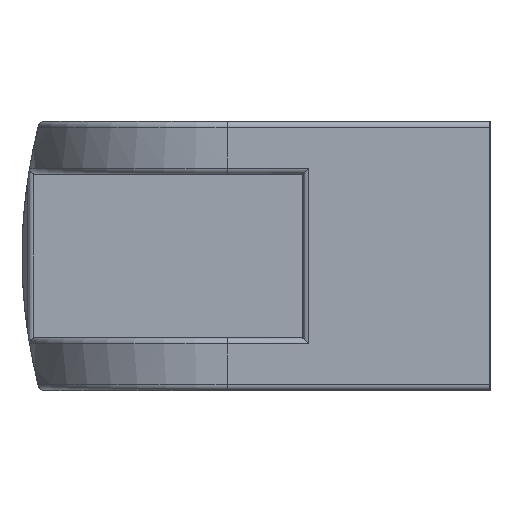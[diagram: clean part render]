
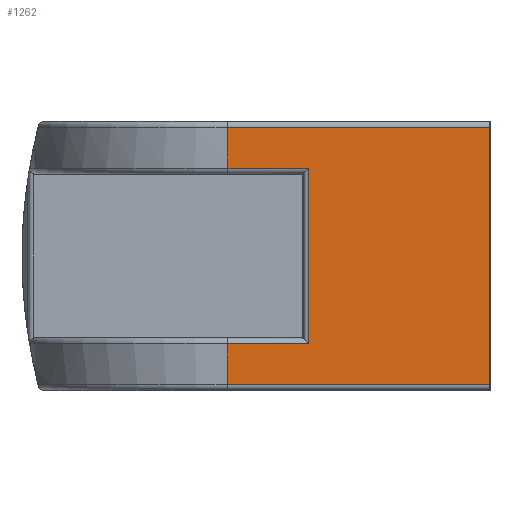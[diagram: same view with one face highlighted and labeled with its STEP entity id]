
A CAD part, left-side view. The second image highlights one B-rep face of the part: STEP entity #1262.
In plain terms, the highlighted planar face has unit normal (-1, 0, 0).
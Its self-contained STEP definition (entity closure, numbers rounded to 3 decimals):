
#96 = CARTESIAN_POINT ( 'NONE',  ( 0., 0., -19. ) ) ;
#261 = CARTESIAN_POINT ( 'NONE',  ( 0., 22.444, -0.5 ) ) ;
#317 = ORIENTED_EDGE ( 'NONE', *, *, #4731, .T. ) ;
#336 = DIRECTION ( 'NONE',  ( 0., -1., 0. ) ) ;
#353 = CARTESIAN_POINT ( 'NONE',  ( 0., 0., -23. ) ) ;
#377 = DIRECTION ( 'NONE',  ( 0., 0., -1. ) ) ;
#428 = LINE ( 'NONE', #2858, #5063 ) ;
#557 = VECTOR ( 'NONE', #336, 1000. ) ;
#643 = CARTESIAN_POINT ( 'NONE',  ( 0., 22.444, 0. ) ) ;
#785 = LINE ( 'NONE', #261, #4382 ) ;
#867 = VERTEX_POINT ( 'NONE', #3375 ) ;
#877 = CARTESIAN_POINT ( 'NONE',  ( 0., 22.444, -0.5 ) ) ;
#900 = VERTEX_POINT ( 'NONE', #3862 ) ;
#909 = ORIENTED_EDGE ( 'NONE', *, *, #5028, .T. ) ;
#989 = EDGE_CURVE ( 'NONE', #1378, #900, #1840, .T. ) ;
#1065 = VECTOR ( 'NONE', #5225, 1000. ) ;
#1164 = VERTEX_POINT ( 'NONE', #877 ) ;
#1262 = ADVANCED_FACE ( 'NONE', ( #2818 ), #4431, .T. ) ;
#1336 = CARTESIAN_POINT ( 'NONE',  ( 0., 0., -0.5 ) ) ;
#1378 = VERTEX_POINT ( 'NONE', #4249 ) ;
#1492 = LINE ( 'NONE', #1649, #1065 ) ;
#1501 = EDGE_LOOP ( 'NONE', ( #2756, #1531, #4859, #3818, #5631, #909, #2266, #317 ) ) ;
#1531 = ORIENTED_EDGE ( 'NONE', *, *, #3207, .T. ) ;
#1649 = CARTESIAN_POINT ( 'NONE',  ( 0., 0., -4. ) ) ;
#1739 = DIRECTION ( 'NONE',  ( -1., 0., 0. ) ) ;
#1762 = LINE ( 'NONE', #643, #5177 ) ;
#1772 = LINE ( 'NONE', #2170, #5188 ) ;
#1803 = EDGE_CURVE ( 'NONE', #1164, #4098, #1762, .T. ) ;
#1840 = LINE ( 'NONE', #5754, #5243 ) ;
#1845 = CARTESIAN_POINT ( 'NONE',  ( 0., 22.444, -4. ) ) ;
#1971 = DIRECTION ( 'NONE',  ( 0., 0., -1. ) ) ;
#2170 = CARTESIAN_POINT ( 'NONE',  ( 0., 0., -23. ) ) ;
#2266 = ORIENTED_EDGE ( 'NONE', *, *, #3606, .T. ) ;
#2382 = EDGE_CURVE ( 'NONE', #900, #4845, #5312, .T. ) ;
#2756 = ORIENTED_EDGE ( 'NONE', *, *, #1803, .T. ) ;
#2818 = FACE_OUTER_BOUND ( 'NONE', #1501, .T. ) ;
#2858 = CARTESIAN_POINT ( 'NONE',  ( 0., 22.444, 0. ) ) ;
#3207 = EDGE_CURVE ( 'NONE', #4098, #1378, #1492, .T. ) ;
#3278 = DIRECTION ( 'NONE',  ( 0., 1., 0. ) ) ;
#3374 = VERTEX_POINT ( 'NONE', #1336 ) ;
#3375 = CARTESIAN_POINT ( 'NONE',  ( 0., 22.444, -22.5 ) ) ;
#3509 = CARTESIAN_POINT ( 'NONE',  ( 0., 0., -22.5 ) ) ;
#3606 = EDGE_CURVE ( 'NONE', #5784, #3374, #1772, .T. ) ;
#3661 = CARTESIAN_POINT ( 'NONE',  ( 0., 0., -22.5 ) ) ;
#3798 = DIRECTION ( 'NONE',  ( 0., 0., -1. ) ) ;
#3818 = ORIENTED_EDGE ( 'NONE', *, *, #2382, .T. ) ;
#3862 = CARTESIAN_POINT ( 'NONE',  ( 0., 15.5, -19. ) ) ;
#4098 = VERTEX_POINT ( 'NONE', #1845 ) ;
#4154 = VECTOR ( 'NONE', #3278, 1000. ) ;
#4249 = CARTESIAN_POINT ( 'NONE',  ( 0., 15.5, -4. ) ) ;
#4382 = VECTOR ( 'NONE', #4759, 1000. ) ;
#4431 = PLANE ( 'NONE',  #5004 ) ;
#4441 = CARTESIAN_POINT ( 'NONE',  ( 0., 22.444, -19. ) ) ;
#4557 = EDGE_CURVE ( 'NONE', #4845, #867, #428, .T. ) ;
#4731 = EDGE_CURVE ( 'NONE', #3374, #1164, #785, .T. ) ;
#4759 = DIRECTION ( 'NONE',  ( 0., 1., 0. ) ) ;
#4845 = VERTEX_POINT ( 'NONE', #4441 ) ;
#4859 = ORIENTED_EDGE ( 'NONE', *, *, #989, .T. ) ;
#4866 = DIRECTION ( 'NONE',  ( 0., 0., 1. ) ) ;
#5004 = AXIS2_PLACEMENT_3D ( 'NONE', #353, #1739, #4866 ) ;
#5028 = EDGE_CURVE ( 'NONE', #867, #5784, #5337, .T. ) ;
#5063 = VECTOR ( 'NONE', #1971, 1000. ) ;
#5177 = VECTOR ( 'NONE', #3798, 1000. ) ;
#5188 = VECTOR ( 'NONE', #5285, 1000. ) ;
#5225 = DIRECTION ( 'NONE',  ( 0., -1., 0. ) ) ;
#5243 = VECTOR ( 'NONE', #377, 1000. ) ;
#5285 = DIRECTION ( 'NONE',  ( 0., 0., 1. ) ) ;
#5312 = LINE ( 'NONE', #96, #4154 ) ;
#5337 = LINE ( 'NONE', #3509, #557 ) ;
#5631 = ORIENTED_EDGE ( 'NONE', *, *, #4557, .T. ) ;
#5754 = CARTESIAN_POINT ( 'NONE',  ( 0., 15.5, -23. ) ) ;
#5784 = VERTEX_POINT ( 'NONE', #3661 ) ;
